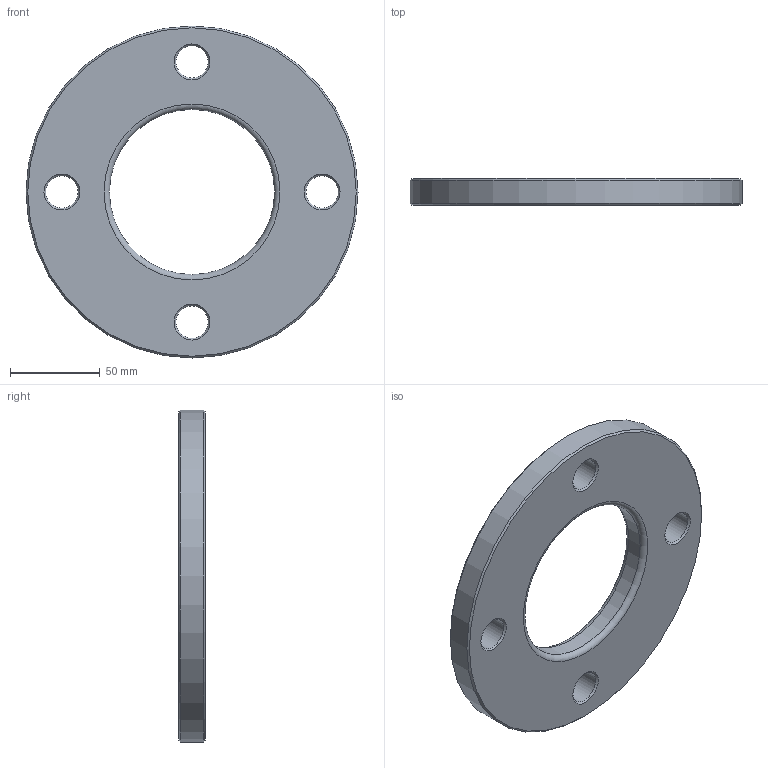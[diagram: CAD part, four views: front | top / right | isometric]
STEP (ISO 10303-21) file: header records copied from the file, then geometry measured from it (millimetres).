
FILE_DESCRIPTION(/* description */ ('Unknown'),/* implementation_level */ '2;1');
FILE_NAME(/* name */ 'FZ075C',/* time_stamp */ '2021-03-15T11:47:29+01:00',/* author */ ('Unknown'),/* organization */ ('Unknown'),/* preprocessor_version */ 'ST-DEVELOPER v16.7',/* originating_system */ 'Solid Edge',/* authorisation */ 'Unknown');
FILE_SCHEMA (('AUTOMOTIVE_DESIGN {1 0 10303 214 3 1 1}'));
Length unit declared in the file: millimetre
Products named in the file (1): FZ075C
Bounding box: 185 x 15 x 185 mm (x, y, z)
Volume: 286275.1 mm3; surface area: 53201.4 mm2
Topology: 1 solids, 1 shells, 20 faces, 54 edges, 36 vertices
Faces by surface type: cone 10, cylinder 6, plane 2, torus 2
Full cylindrical faces by diameter (mm): 18 x4, 92 x1, 185 x1
Entity records: 494 total; most frequent: DIRECTION 90, CARTESIAN_POINT 69, ORIENTED_EDGE 48, EDGE_LOOP 48, FACE_BOUND 48, AXIS2_PLACEMENT_3D 45, EDGE_CURVE 24, VERTEX_POINT 24
